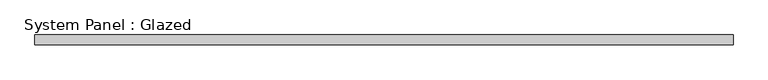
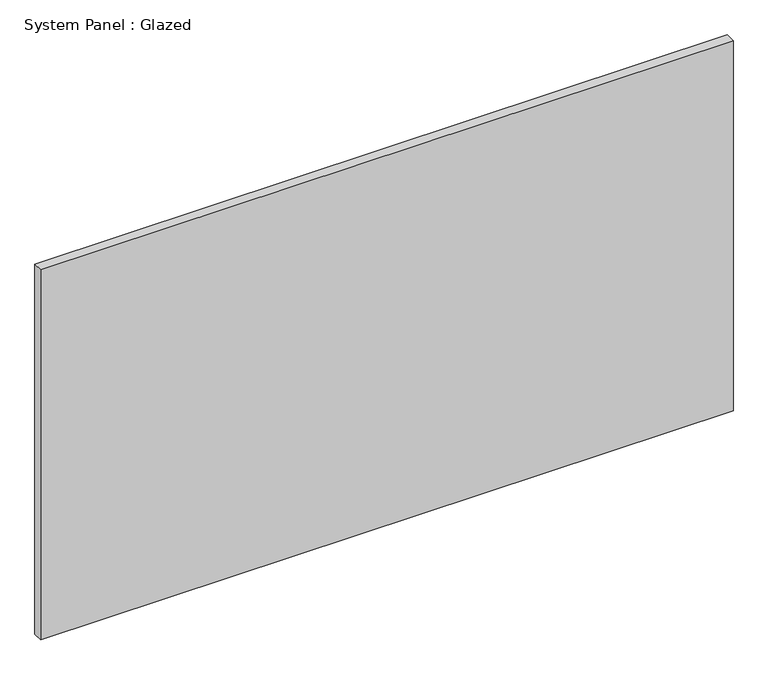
"""IFC4 building model written with IfcOpenShell, lengths in millimetres: plate geometry, System Panel : Glazed."""

import ifcopenshell
import ifcopenshell.guid

model = None  # the IFC model being written
_history = None  # IfcOwnerHistory: only IFC2X3 demands one
_inside = {}  # id of a spatial element -> (the spatial element, [elements in it])
_under = {}  # id of a project, library or spatial element -> (it, [spatial elements below it])
_declared = {}  # id of a project -> (the project, [libraries it declares])
_typed = {}  # id of a type object -> (the type object, [elements of that type])
_made_of = {}  # id of a material, layer set ... -> (it, [elements and type objects made of it])


def new_model(schema):
    """Start an empty IFC model of exactly this schema.

    Asked for "IFC4X3", IfcOpenShell would pick the latest addendum, in which some entities
    have other attributes; the version numbers below select the first issue.
    IFC2X3 requires an IfcOwnerHistory on every rooted entity: one is made here for all.
    """
    global model, _history
    if schema == "IFC4X3":
        model = ifcopenshell.file(schema_version=(4, 3, 0, 0))
    else:
        model = ifcopenshell.file(schema=schema)
    _inside.clear()
    _under.clear()
    _declared.clear()
    _typed.clear()
    _made_of.clear()
    _history = None
    if model.schema == "IFC2X3":
        org = make("IfcOrganization", Name="unknown")
        user = make(
            "IfcPersonAndOrganization",
            ThePerson=make("IfcPerson", FamilyName="unknown"),
            TheOrganization=org,
        )
        app = make(
            "IfcApplication",
            ApplicationDeveloper=org,
            Version="unknown",
            ApplicationFullName="unknown",
            ApplicationIdentifier="unknown",
        )
        _history = make(
            "IfcOwnerHistory",
            OwningUser=user,
            OwningApplication=app,
            ChangeAction="ADDED",
            CreationDate=0,
        )
    return model


def make(cls, **values):
    """One entity of the class cls with the attributes given. An attribute that is None is left unset."""
    return model.create_entity(
        cls, **{name: value for name, value in values.items() if value is not None}
    )


def rooted(cls, **values):
    """An entity with a GlobalId (a new one), such as an element, a storey or a relation."""
    return make(cls, GlobalId=ifcopenshell.guid.new(), OwnerHistory=_history, **values)


def si_unit(unit_type, name, prefix=None):
    """IfcSIUnit, for example si_unit("LENGTHUNIT", "METRE", prefix="MILLI")."""
    return make("IfcSIUnit", UnitType=unit_type, Prefix=prefix, Name=name)


def assignment(units):
    """IfcUnitAssignment: the units of a project."""
    return None if units is None else make("IfcUnitAssignment", Units=units)


def point(xyz):
    """IfcCartesianPoint."""
    return None if xyz is None else make("IfcCartesianPoint", Coordinates=xyz)


def direction(xyz):
    """IfcDirection."""
    return None if xyz is None else make("IfcDirection", DirectionRatios=xyz)


def frame(location, z_axis=None, x_axis=None):
    """IfcAxis2Placement3D, a coordinate frame: its origin and axes. An axis left out is left unset."""
    return make(
        "IfcAxis2Placement3D",
        Location=point(location),
        Axis=direction(z_axis),
        RefDirection=direction(x_axis),
    )


def origin():
    """The frame at (0, 0, 0) with its axes left unset."""
    return frame((0.0, 0.0, 0.0))


def origin_with_axes():
    """The frame at (0, 0, 0) with the z axis (0, 0, 1) and the x axis (1, 0, 0) written out."""
    return frame((0.0, 0.0, 0.0), z_axis=(0.0, 0.0, 1.0), x_axis=(1.0, 0.0, 0.0))


def place(relative_to, where):
    """IfcLocalPlacement: puts the frame where relative to a parent placement (None: the world)."""
    return make(
        "IfcLocalPlacement", PlacementRelTo=relative_to, RelativePlacement=where
    )


def context(
    kind, dimensions, precision=None, world=None, true_north=None, identifier=None
):
    """IfcGeometricRepresentationContext, for example the 3D "Model" context."""
    return make(
        "IfcGeometricRepresentationContext",
        ContextIdentifier=identifier,
        ContextType=kind,
        CoordinateSpaceDimension=dimensions,
        Precision=precision,
        WorldCoordinateSystem=world,
        TrueNorth=true_north,
    )


def project(units=None, contexts=None):
    """IfcProject with its units and contexts."""
    return rooted(
        "IfcProject",
        Name="project",
        RepresentationContexts=contexts,
        UnitsInContext=assignment(units),
    )


def spatial(cls, under=None, at=None, **own):
    """A site, building, storey or space (cls), placed at a placement, below another one or the project."""
    s = rooted(cls, ObjectPlacement=at, **own)
    if under is not None:
        _under.setdefault(under.id(), (under, []))[1].append(s)
    return s


def polyline(points):
    """IfcPolyline through the points."""
    return make("IfcPolyline", Points=[point(p) for p in points])


def outline(outer, holes=None, kind="AREA"):
    """IfcArbitraryClosedProfileDef: a profile drawn as a closed curve; with holes, ...WithVoids."""
    if holes is None:
        return make("IfcArbitraryClosedProfileDef", ProfileType=kind, OuterCurve=outer)
    return make(
        "IfcArbitraryProfileDefWithVoids",
        ProfileType=kind,
        OuterCurve=outer,
        InnerCurves=holes,
    )


def extrude(swept, where, along, depth):
    """IfcExtrudedAreaSolid: the profile swept, set in the frame where, extruded along a direction by depth."""
    return make(
        "IfcExtrudedAreaSolid",
        SweptArea=swept,
        Position=where,
        ExtrudedDirection=direction(along),
        Depth=depth,
    )


def shape(context_of_items, identifier, shape_type, items):
    """IfcShapeRepresentation: the items that make up one representation, for example the "Body"."""
    return make(
        "IfcShapeRepresentation",
        ContextOfItems=context_of_items,
        RepresentationIdentifier=identifier,
        RepresentationType=shape_type,
        Items=items,
    )


def source(mapping_origin, context_of_items, identifier, shape_type, items):
    """IfcRepresentationMap: a shape defined once, which mapped items show again and again."""
    return make(
        "IfcRepresentationMap",
        MappingOrigin=mapping_origin,
        MappedRepresentation=shape(context_of_items, identifier, shape_type, items),
    )


def transform(
    local_origin,
    x_axis=None,
    y_axis=None,
    z_axis=None,
    scale=None,
    scale2=None,
    scale3=None,
    uniform=True,
):
    """IfcCartesianTransformationOperator3D, or its non-uniform kind. x_axis, y_axis, z_axis: its Axis1, 2, 3."""
    if uniform:
        return make(
            "IfcCartesianTransformationOperator3D",
            Axis1=direction(x_axis),
            Axis2=direction(y_axis),
            LocalOrigin=point(local_origin),
            Scale=scale,
            Axis3=direction(z_axis),
        )
    return make(
        "IfcCartesianTransformationOperator3DnonUniform",
        Axis1=direction(x_axis),
        Axis2=direction(y_axis),
        LocalOrigin=point(local_origin),
        Scale=scale,
        Axis3=direction(z_axis),
        Scale2=scale2,
        Scale3=scale3,
    )


def mapped(mapping_source, mapping_target):
    """IfcMappedItem: shows the shape of a source again, moved by a transform."""
    return make(
        "IfcMappedItem", MappingSource=mapping_source, MappingTarget=mapping_target
    )


def made_of(thing, what):
    """Note that an element or type object is made of a material, layer set ...; save() writes the relation."""
    if what is not None:
        _made_of.setdefault(what.id(), (what, []))[1].append(thing)
    return thing


def element(
    cls,
    number,
    at=None,
    inside=None,
    cuts=None,
    type_object=None,
    material=None,
    context=None,
    identifier="Body",
    shape_type=None,
    held_by="IfcProductDefinitionShape",
    body=None,
    shapes=None,
    **own,
):
    """One element of the class cls, such as IfcWall. Its Tag is "e" and its number.

    at: its placement. inside: the storey or other place that contains it. cuts: it is an
    opening in that element (IfcRelVoidsElement). A single representation is given by context,
    identifier, shape_type and body (its items); several are given by shapes. held_by: the class
    of the entity that holds the representations. save() writes the other relations.
    """
    e = rooted(cls, Tag="e%d" % number, ObjectPlacement=at, **own)
    if body is not None:
        shapes = [shape(context, identifier, shape_type, body)]
    if shapes is not None:
        e.Representation = make(held_by, Representations=shapes)
    if inside is not None:
        _inside.setdefault(inside.id(), (inside, []))[1].append(e)
    if cuts is not None:
        rooted(
            "IfcRelVoidsElement", RelatingBuildingElement=cuts, RelatedOpeningElement=e
        )
    if type_object is not None:
        _typed.setdefault(type_object.id(), (type_object, []))[1].append(e)
    return made_of(e, material)


def aggregate(whole, parts):
    """IfcRelAggregates: a whole, such as a stair, and the parts it consists of."""
    return rooted("IfcRelAggregates", RelatingObject=whole, RelatedObjects=parts)


def save(model, path):
    """Write the relations noted so far, then the file.

    IfcRelAggregates (storeys below a building ...), IfcRelContainedInSpatialStructure (elements
    in a storey), IfcRelDefinesByType, IfcRelAssociatesMaterial and IfcRelDeclares: one each for
    every whole, place, type object, material and project.
    """
    for whole, parts in _under.values():
        aggregate(whole, parts)
    for where, things in _inside.values():
        rooted(
            "IfcRelContainedInSpatialStructure",
            RelatedElements=things,
            RelatingStructure=where,
        )
    for kind, things in _typed.values():
        rooted("IfcRelDefinesByType", RelatedObjects=things, RelatingType=kind)
    for what, things in _made_of.values():
        rooted("IfcRelAssociatesMaterial", RelatedObjects=things, RelatingMaterial=what)
    for by, libraries in _declared.values():
        rooted("IfcRelDeclares", RelatingContext=by, RelatedDefinitions=libraries)
    model.write(path)


def system_panel_glazed_3ddc4d3d(model_context):
    return source(origin(), model_context, "Body", "SweptSolid", [
        extrude(outline(polyline([(884.9999998, 24.5), (-884.9999998, 24.5), (-884.9999998, 49.5), (884.9999998, 49.5), (884.9999998, 24.5)])), origin_with_axes(), (0.0, 0.0, 1.0), 1000.0),
    ])


if __name__ == "__main__":
    model = new_model("IFC4")
    model_context = context("Model", 3, world=origin())
    ifc_project = project(units=[si_unit("LENGTHUNIT", "METRE", prefix="MILLI")], contexts=[model_context])
    site = spatial("IfcSite", under=ifc_project)
    building = spatial("IfcBuilding", under=site)
    placement = place(None, origin())
    system_panel_glazed_shape = system_panel_glazed_3ddc4d3d(model_context)
    element("IfcPlate", 1, ObjectType="System Panel : Glazed", at=placement, inside=building, context=model_context, shape_type="MappedRepresentation", body=[
        mapped(system_panel_glazed_shape, transform((0.0, 0.0, 0.0), x_axis=(1.0, 0.0, 0.0), y_axis=(0.0, 1.0, 0.0), z_axis=(0.0, 0.0, 1.0))),
    ])
    save(model, "model.ifc")
